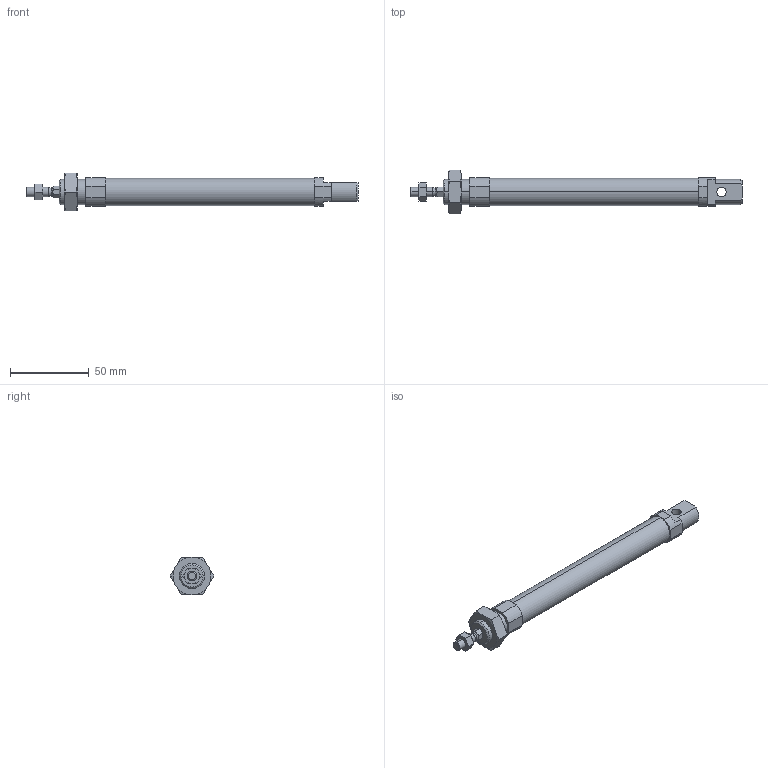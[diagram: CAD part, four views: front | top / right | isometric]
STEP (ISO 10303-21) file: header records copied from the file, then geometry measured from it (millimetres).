
FILE_DESCRIPTION (( 'STEP AP203' ), '1' );
FILE_NAME ('CSMK16-100.STEP', '2020-04-02T10:45:47', ( '' ), ( '' ), 'SwSTEP 2.0', 'SolidWorks 2019', '' );
FILE_SCHEMA (( 'CONFIG_CONTROL_DESIGN' ));
Length unit declared in the file: millimetre
Products named in the file (1): CSMK16-100
Bounding box: 211 x 27.71 x 24 mm (x, y, z)
Volume: 30564.9 mm3; surface area: 23361.2 mm2
Topology: 4 solids, 4 shells, 135 faces, 310 edges, 189 vertices
Faces by surface type: plane 53, cone 50, cylinder 32
Entity records: 4287 total; most frequent: CARTESIAN_POINT 1185, DIRECTION 636, ORIENTED_EDGE 616, EDGE_CURVE 308, AXIS2_PLACEMENT_3D 250, VERTEX_POINT 189, EDGE_LOOP 151, LINE 136
